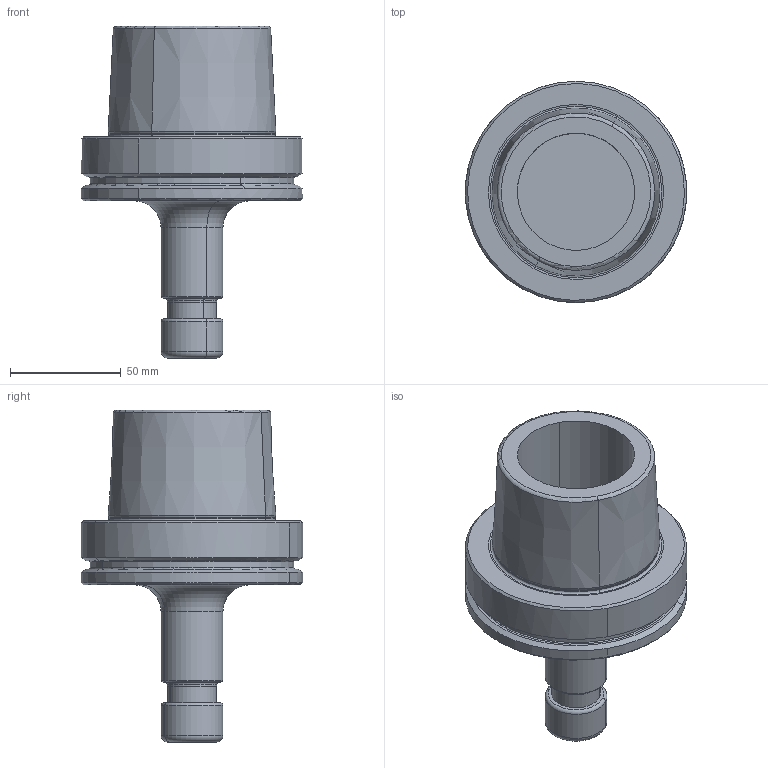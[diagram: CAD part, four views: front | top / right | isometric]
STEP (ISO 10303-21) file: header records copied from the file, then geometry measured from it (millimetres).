
FILE_DESCRIPTION(('CATIA V5 STEP','CAx-IF Rec.Pracs.--- Model Styling and Organization---1.2---2011-12-15'),'2;1');
FILE_NAME('\\nas01\drv1\utils\eitdev\rte\eit\transmagicconvert\db\out\635922561784600465\4561219-L-B.stp','2016-02-28T09:36:30+00:00',('none'),('none'),'CATIA Version 5 Release 21 SP 5 (IN-10)','CATIA V5 STEP AP214','none');
FILE_SCHEMA(('AUTOMOTIVE_DESIGN { 1 0 10303 214 1 1 1 1 }'));
Length unit declared in the file: millimetre
Products named in the file (1): HSK A 100 ER16X100
Bounding box: 99.98 x 100 x 150 mm (x, y, z)
Volume: 335615.4 mm3; surface area: 54634.5 mm2
Topology: 1 solids, 1 shells, 74 faces, 196 edges, 131 vertices
Faces by surface type: cylinder 24, torus 20, cone 20, plane 10
Entity records: 2217 total; most frequent: CARTESIAN_POINT 514, ORIENTED_EDGE 388, DIRECTION 264, EDGE_CURVE 194, AXIS2_PLACEMENT_3D 177, CIRCLE 132, VERTEX_POINT 131, EDGE_LOOP 83
